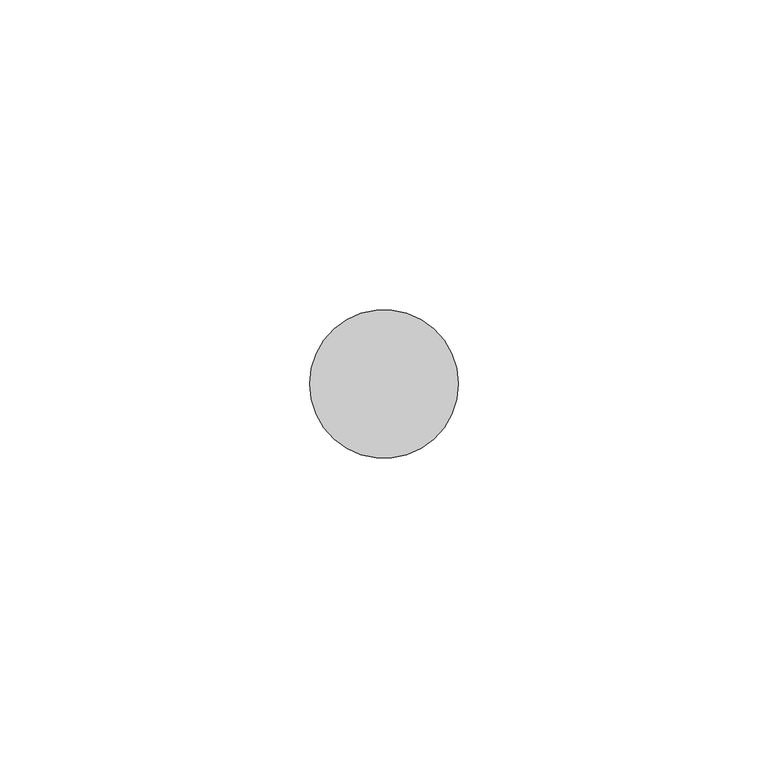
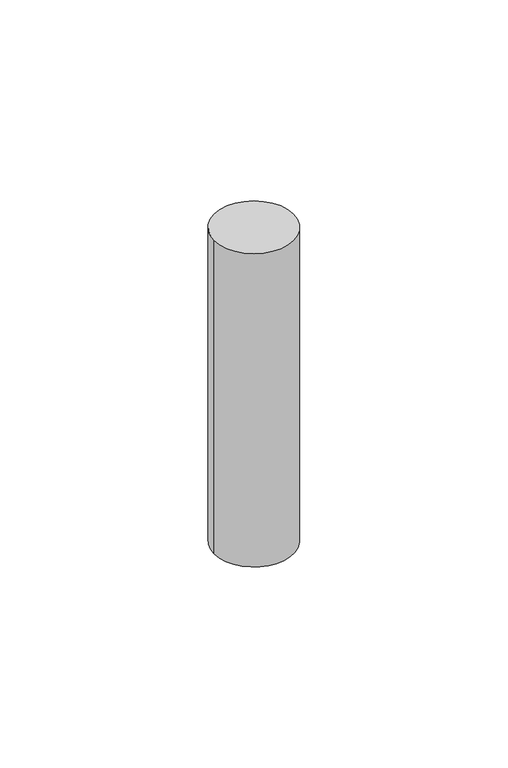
"""IFC4 building model written with IfcOpenShell, lengths in millimetres: pipe fitting geometry, СТ_Вл-3D_Подсчет_Шпилька : СТ_Вл-3D_Подсчет_Шпилька."""

from ifc_helpers import new_model, si_unit, point, origin, origin_with_axes, origin_2d, place, context, project, spatial, circle_curve, trimmed, segment, composite_curve, outline, extrude, source, transform, mapped, element, save


def pipe_fitting_f6f02d7e(model_context):
    return source(origin(), model_context, "Body", "SweptSolid", [
        extrude(outline(composite_curve([segment(trimmed(circle_curve(origin_2d(), 12.0), [point((-12.0, 0.0))], [point((12.0, 0.0))], False, "CARTESIAN"), True, "CONTINUOUS"), segment(trimmed(circle_curve(origin_2d(), 12.0), [point((12.0, 0.0))], [point((-12.0, 0.0))], False, "CARTESIAN"), True, "CONTINUOUS")], self_intersect=False)), origin_with_axes(), (0.0, 0.0, 1.0), 100.0),
    ])


if __name__ == "__main__":
    model = new_model("IFC4")
    model_context = context("Model", 3, world=origin())
    ifc_project = project(units=[si_unit("LENGTHUNIT", "METRE", prefix="MILLI")], contexts=[model_context])
    site = spatial("IfcSite", under=ifc_project)
    building = spatial("IfcBuilding", under=site)
    placement = place(None, origin())
    pipe_fitting_shape = pipe_fitting_f6f02d7e(model_context)
    element("IfcPipeFitting", 1, ObjectType="СТ_Вл-3D_Подсчет_Шпилька : СТ_Вл-3D_Подсчет_Шпилька", at=placement, inside=building, context=model_context, shape_type="MappedRepresentation", body=[
        mapped(pipe_fitting_shape, transform((0.0, 0.0, 0.0), x_axis=(1.0, 0.0, 0.0), y_axis=(0.0, 1.0, 0.0), z_axis=(0.0, 0.0, 1.0))),
    ])
    save(model, "model.ifc")
